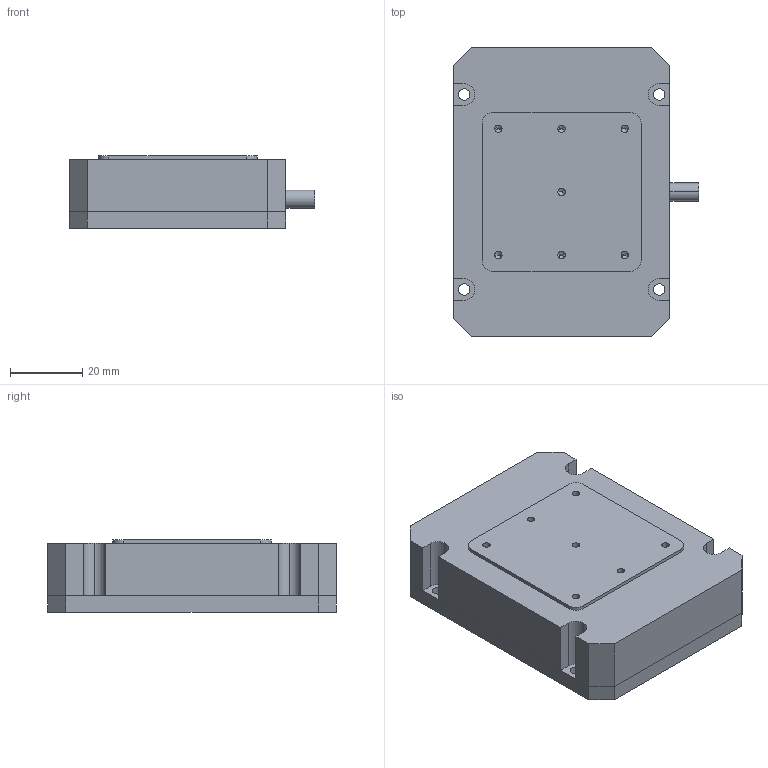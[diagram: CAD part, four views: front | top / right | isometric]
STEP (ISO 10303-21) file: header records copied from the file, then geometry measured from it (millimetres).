
FILE_DESCRIPTION (( 'STEP AP203' ), '1' );
FILE_NAME ('P60.Z250S-B1外形三维-21.07.29.STEP', '2021-07-29T07:14:22', ( 'Windows 用户' ), ( '微软中国' ), 'SwSTEP 2.0', 'SolidWorks 2016', '' );
FILE_SCHEMA (( 'CONFIG_CONTROL_DESIGN' ));
Length unit declared in the file: millimetre
Products named in the file (1): P60.Z250S-B1外形三维-21.07.29
Bounding box: 68 x 80 x 20 mm (x, y, z)
Volume: 90198.3 mm3; surface area: 25045.1 mm2
Topology: 2 solids, 2 shells, 86 faces, 226 edges, 139 vertices
Faces by surface type: plane 38, cylinder 34, cone 14
Entity records: 2639 total; most frequent: DIRECTION 454, CARTESIAN_POINT 438, ORIENTED_EDGE 424, EDGE_CURVE 212, AXIS2_PLACEMENT_3D 155, VECTOR 144, LINE 144, VERTEX_POINT 139
